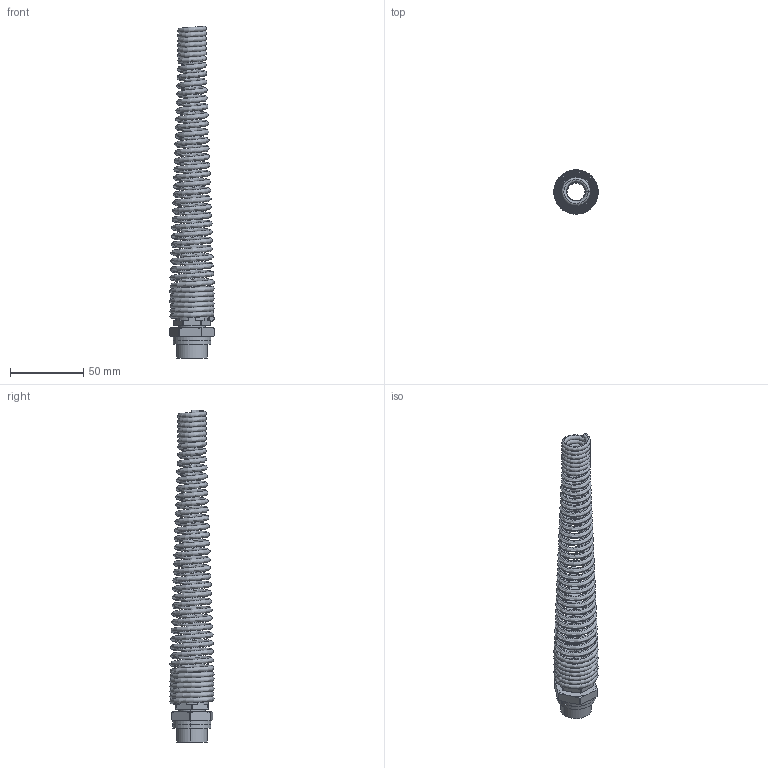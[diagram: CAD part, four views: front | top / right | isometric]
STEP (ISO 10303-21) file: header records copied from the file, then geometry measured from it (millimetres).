
FILE_DESCRIPTION (( 'STEP AP214' ), '1' );
FILE_NAME ('0000002493.STEP', '2015-06-16T06:26:30', ( 'HP' ), ( 'Hewlett-Packard Company' ), 'SwSTEP 2.0', 'SolidWorks 2014', '' );
FILE_SCHEMA (( 'AUTOMOTIVE_DESIGN' ));
Length unit declared in the file: millimetre
Products named in the file (3): 0000002491; 0000002490; 0000002493
Assembly tree (2 placements, depth 2):
  0000002493
    0000002490
    0000002491
Bounding box: 30.87 x 30.28 x 226.6 mm (x, y, z)
Volume: 33707.6 mm3; surface area: 35382.4 mm2
Topology: 4 solids, 4 shells, 106 faces, 273 edges, 179 vertices
Faces by surface type: cylinder 44, cone 34, plane 24, bspline 2, torus 2
Entity records: 37509 total; most frequent: CARTESIAN_POINT 34241, ORIENTED_EDGE 546, DIRECTION 458, EDGE_CURVE 273, AXIS2_PLACEMENT_3D 184, VERTEX_POINT 179, EDGE_LOOP 116, B_SPLINE_CURVE_WITH_KNOTS 108
